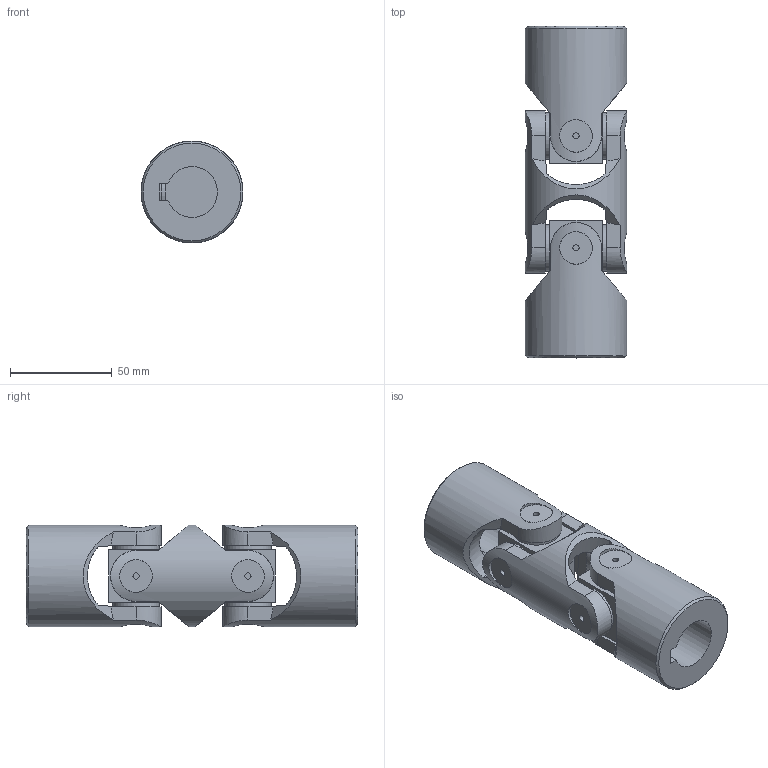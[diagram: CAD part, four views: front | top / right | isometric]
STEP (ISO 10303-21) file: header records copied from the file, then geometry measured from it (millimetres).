
FILE_DESCRIPTION(/* description */ (''),/* implementation_level */ '2;1');
FILE_NAME(/* name */ '\\SRV2016\Societa\Stefano\Disegni 3D\00Catalogo 3D\02Doppi GD-GBD\SG0D251C.stp',/* time_stamp */ '2021-11-23T15:36:51+01:00',/* author */ ('acquisti'),/* organization */ (''),/* preprocessor_version */ 'ST-DEVELOPER v15.6',/* originating_system */ 'Autodesk Inventor 2015',/* authorisation */ '');
FILE_SCHEMA (('AUTOMOTIVE_DESIGN { 1 0 10303 214 3 1 1 }'));
Length unit declared in the file: millimetre
Products named in the file (5): 5G MOD; 5G SFE; 5G MOC; 5G MOS; Ø50_5GD-00_SG0D2500
Assembly tree (5 placements, depth 2):
  Ø50_5GD-00_SG0D2500
    5G MOD
    5G SFE  x2
    5G MOC
    5G MOS
Bounding box: 50 x 163 x 50 mm (x, y, z)
Volume: 206891.8 mm3; surface area: 52221.3 mm2
Topology: 5 solids, 5 shells, 140 faces, 340 edges, 230 vertices
Faces by surface type: plane 73, cylinder 41, cone 22, torus 4
Full cylindrical faces by diameter (mm): 3 x8, 16 x8, 23 x8, 25 x1, 28 x3, 50 x3
Entity records: 4505 total; most frequent: CARTESIAN_POINT 1679, ORIENTED_EDGE 552, DIRECTION 531, EDGE_CURVE 276, AXIS2_PLACEMENT_3D 231, VERTEX_POINT 210, EDGE_LOOP 184, FACE_OUTER_BOUND 126
